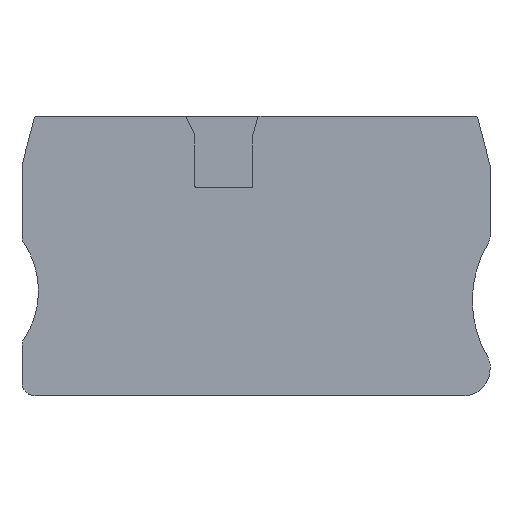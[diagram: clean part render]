
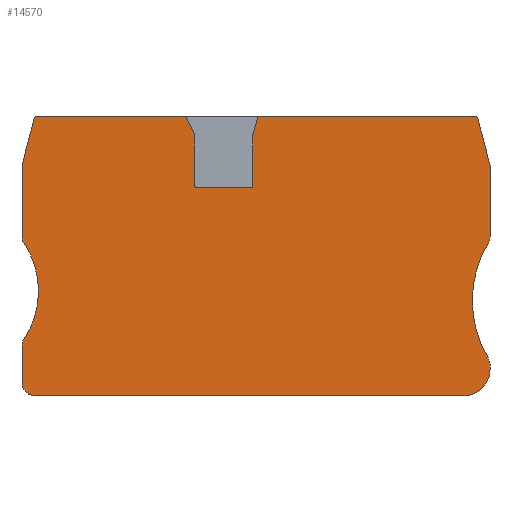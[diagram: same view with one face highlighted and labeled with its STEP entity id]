
A CAD part, top view. The second image highlights one B-rep face of the part: STEP entity #14570.
In plain terms, the highlighted planar face has unit normal (0, 0, 1).
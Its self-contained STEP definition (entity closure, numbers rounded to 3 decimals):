
#200=CARTESIAN_POINT('',(-2.6,31.9,12.2));
#210=VERTEX_POINT('',#200);
#240=CARTESIAN_POINT('',(12.583,31.9,12.2));
#250=DIRECTION('',(1.,0.,0.));
#260=VECTOR('',#250,1.);
#270=LINE('',#240,#260);
#280=CARTESIAN_POINT('',(-11.,31.9,12.2));
#290=VERTEX_POINT('',#280);
#300=EDGE_CURVE('',#290,#210,#270,.T.);
#530=CARTESIAN_POINT('',(-3.075,37.294,12.2));
#540=DIRECTION('',(0.259,0.966,0.));
#550=VECTOR('',#540,1.);
#560=LINE('',#530,#550);
#570=CARTESIAN_POINT('',(-2.4,39.812,12.2));
#580=VERTEX_POINT('',#570);
#590=CARTESIAN_POINT('',(-1.596,42.812,12.2));
#600=VERTEX_POINT('',#590);
#610=EDGE_CURVE('',#580,#600,#560,.T.);
#1140=CARTESIAN_POINT('',(31.428,42.812,12.2));
#1150=VERTEX_POINT('',#1140);
#1180=CARTESIAN_POINT('',(12.583,42.812,12.2));
#1190=DIRECTION('',(-1.,0.,0.));
#1200=VECTOR('',#1190,1.);
#1210=LINE('',#1180,#1200);
#1220=EDGE_CURVE('',#1150,#600,#1210,.T.);
#1370=CARTESIAN_POINT('',(-12.599,42.812,12.2));
#1380=VERTEX_POINT('',#1370);
#1410=CARTESIAN_POINT('',(-35.228,42.812,12.2));
#1420=VERTEX_POINT('',#1410);
#1430=EDGE_CURVE('',#1380,#1420,#1210,.T.);
#2030=CARTESIAN_POINT('',(-2.4,37.294,12.2));
#2040=DIRECTION('',(0.,1.,0.));
#2050=VECTOR('',#2040,1.);
#2060=LINE('',#2030,#2050);
#2070=CARTESIAN_POINT('',(-2.4,32.1,12.2));
#2080=VERTEX_POINT('',#2070);
#2090=EDGE_CURVE('',#2080,#580,#2060,.T.);
#5290=CARTESIAN_POINT('',(-10.026,37.294,12.2));
#5300=DIRECTION('',(0.423,-0.906,0.));
#5310=VECTOR('',#5300,1.);
#5320=LINE('',#5290,#5310);
#5330=CARTESIAN_POINT('',(-11.2,39.812,12.2));
#5340=VERTEX_POINT('',#5330);
#5350=EDGE_CURVE('',#1380,#5340,#5320,.T.);
#5670=CARTESIAN_POINT('',(-11.,32.1,12.2));
#5680=DIRECTION('',(0.,0.,-1.));
#5690=DIRECTION('',(-1.,0.,0.));
#5700=AXIS2_PLACEMENT_3D('',#5670,#5680,#5690);
#5710=CIRCLE('',#5700,0.2);
#5720=CARTESIAN_POINT('',(-11.2,32.1,12.2));
#5730=VERTEX_POINT('',#5720);
#5740=EDGE_CURVE('',#290,#5730,#5710,.T.);
#6070=CARTESIAN_POINT('',(-2.6,32.1,12.2));
#6080=DIRECTION('',(0.,0.,-1.));
#6090=DIRECTION('',(-1.,0.,0.));
#6100=AXIS2_PLACEMENT_3D('',#6070,#6080,#6090);
#6110=CIRCLE('',#6100,0.2);
#6120=EDGE_CURVE('',#2080,#210,#6110,.T.);
#6380=CARTESIAN_POINT('',(-11.2,37.294,12.2));
#6390=DIRECTION('',(0.,-1.,0.));
#6400=VECTOR('',#6390,1.);
#6410=LINE('',#6380,#6400);
#6420=EDGE_CURVE('',#5340,#5730,#6410,.T.);
#6970=CARTESIAN_POINT('',(-35.228,42.312,12.2));
#6980=DIRECTION('',(0.,0.,1.));
#6990=DIRECTION('',(1.,0.,0.));
#7000=AXIS2_PLACEMENT_3D('',#6970,#6980,#6990);
#7010=CIRCLE('',#7000,0.5);
#7020=CARTESIAN_POINT('',(-35.711,42.439,12.2));
#7030=VERTEX_POINT('',#7020);
#7040=EDGE_CURVE('',#1420,#7030,#7010,.T.);
#7290=CARTESIAN_POINT('',(-37.063,37.294,12.2));
#7300=DIRECTION('',(-0.254,-0.967,0.));
#7310=VECTOR('',#7300,1.);
#7320=LINE('',#7290,#7310);
#7330=CARTESIAN_POINT('',(-37.572,35.355,12.2));
#7340=VERTEX_POINT('',#7330);
#7350=EDGE_CURVE('',#7030,#7340,#7320,.T.);
#7600=CARTESIAN_POINT('',(-37.572,37.294,12.2));
#7610=DIRECTION('',(0.,-1.,0.));
#7620=VECTOR('',#7610,1.);
#7630=LINE('',#7600,#7620);
#7640=CARTESIAN_POINT('',(-37.572,24.372,12.2));
#7650=VERTEX_POINT('',#7640);
#7660=EDGE_CURVE('',#7340,#7650,#7630,.T.);
#7910=CARTESIAN_POINT('',(-36.072,24.372,12.2));
#7920=DIRECTION('',(0.,0.,1.));
#7930=DIRECTION('',(1.,0.,0.));
#7940=AXIS2_PLACEMENT_3D('',#7910,#7920,#7930);
#7950=CIRCLE('',#7940,1.5);
#7960=CARTESIAN_POINT('',(-37.315,23.533,12.2));
#7970=VERTEX_POINT('',#7960);
#7980=EDGE_CURVE('',#7650,#7970,#7950,.T.);
#8230=CARTESIAN_POINT('',(-48.257,16.15,12.2));
#8240=DIRECTION('',(0.,0.,1.));
#8250=DIRECTION('',(1.,0.,0.));
#8260=AXIS2_PLACEMENT_3D('',#8230,#8240,#8250);
#8270=CIRCLE('',#8260,13.2);
#8280=CARTESIAN_POINT('',(-35.057,16.15,12.2));
#8290=VERTEX_POINT('',#8280);
#8300=EDGE_CURVE('',#8290,#7970,#8270,.T.);
#8580=CARTESIAN_POINT('',(-37.315,8.767,12.2));
#8590=VERTEX_POINT('',#8580);
#8620=CARTESIAN_POINT('',(-36.072,7.928,12.2));
#8630=DIRECTION('',(0.,0.,1.));
#8640=DIRECTION('',(1.,0.,0.));
#8650=AXIS2_PLACEMENT_3D('',#8620,#8630,#8640);
#8660=CIRCLE('',#8650,1.5);
#8670=CARTESIAN_POINT('',(-37.572,7.928,12.2));
#8680=VERTEX_POINT('',#8670);
#8690=EDGE_CURVE('',#8590,#8680,#8660,.T.);
#8940=CARTESIAN_POINT('',(-37.572,37.294,12.2));
#8950=DIRECTION('',(0.,-1.,0.));
#8960=VECTOR('',#8950,1.);
#8970=LINE('',#8940,#8960);
#8980=CARTESIAN_POINT('',(-37.572,2.2,12.2));
#8990=VERTEX_POINT('',#8980);
#9000=EDGE_CURVE('',#8680,#8990,#8970,.T.);
#9250=CARTESIAN_POINT('',(-35.572,2.2,12.2));
#9260=DIRECTION('',(0.,0.,1.));
#9270=DIRECTION('',(1.,0.,0.));
#9280=AXIS2_PLACEMENT_3D('',#9250,#9260,#9270);
#9290=CIRCLE('',#9280,2.);
#9300=CARTESIAN_POINT('',(-35.572,0.2,12.2));
#9310=VERTEX_POINT('',#9300);
#9320=EDGE_CURVE('',#8990,#9310,#9290,.T.);
#9570=CARTESIAN_POINT('',(12.583,0.2,12.2));
#9580=DIRECTION('',(1.,0.,0.));
#9590=VECTOR('',#9580,1.);
#9600=LINE('',#9570,#9590);
#9610=CARTESIAN_POINT('',(29.772,0.2,12.2));
#9620=VERTEX_POINT('',#9610);
#9630=EDGE_CURVE('',#9310,#9620,#9600,.T.);
#9880=CARTESIAN_POINT('',(29.772,4.2,12.2));
#9890=DIRECTION('',(0.,0.,1.));
#9900=DIRECTION('',(1.,0.,0.));
#9910=AXIS2_PLACEMENT_3D('',#9880,#9890,#9900);
#9920=CIRCLE('',#9910,4.);
#9930=CARTESIAN_POINT('',(33.772,4.2,12.2));
#9940=VERTEX_POINT('',#9930);
#9950=EDGE_CURVE('',#9620,#9940,#9920,.T.);
#10200=CARTESIAN_POINT('',(33.772,37.294,12.2));
#10210=DIRECTION('',(0.,1.,0.));
#10220=VECTOR('',#10210,1.);
#10230=LINE('',#10200,#10220);
#10240=CARTESIAN_POINT('',(33.772,4.937,12.2));
#10250=VERTEX_POINT('',#10240);
#10260=EDGE_CURVE('',#9940,#10250,#10230,.T.);
#10510=CARTESIAN_POINT('',(31.772,4.937,12.2));
#10520=DIRECTION('',(0.,0.,1.));
#10530=DIRECTION('',(1.,0.,0.));
#10540=AXIS2_PLACEMENT_3D('',#10510,#10520,#10530);
#10550=CIRCLE('',#10540,2.);
#10560=CARTESIAN_POINT('',(33.487,5.965,12.2));
#10570=VERTEX_POINT('',#10560);
#10580=EDGE_CURVE('',#10250,#10570,#10550,.T.);
#10830=CARTESIAN_POINT('',(48.072,14.7,12.2));
#10840=DIRECTION('',(0.,0.,1.));
#10850=DIRECTION('',(1.,0.,0.));
#10860=AXIS2_PLACEMENT_3D('',#10830,#10840,#10850);
#10870=CIRCLE('',#10860,17.);
#10880=CARTESIAN_POINT('',(31.072,14.7,12.2));
#10890=VERTEX_POINT('',#10880);
#10900=EDGE_CURVE('',#10890,#10570,#10870,.T.);
#11180=CARTESIAN_POINT('',(33.487,23.435,12.2));
#11190=VERTEX_POINT('',#11180);
#11220=CARTESIAN_POINT('',(31.772,24.463,12.2));
#11230=DIRECTION('',(0.,0.,1.));
#11240=DIRECTION('',(1.,0.,0.));
#11250=AXIS2_PLACEMENT_3D('',#11220,#11230,#11240);
#11260=CIRCLE('',#11250,2.);
#11270=CARTESIAN_POINT('',(33.772,24.463,12.2));
#11280=VERTEX_POINT('',#11270);
#11290=EDGE_CURVE('',#11190,#11280,#11260,.T.);
#11540=CARTESIAN_POINT('',(33.772,37.294,12.2));
#11550=DIRECTION('',(0.,1.,0.));
#11560=VECTOR('',#11550,1.);
#11570=LINE('',#11540,#11560);
#11580=CARTESIAN_POINT('',(33.772,35.355,12.2));
#11590=VERTEX_POINT('',#11580);
#11600=EDGE_CURVE('',#11280,#11590,#11570,.T.);
#11850=CARTESIAN_POINT('',(33.263,37.294,12.2));
#11860=DIRECTION('',(-0.254,0.967,0.));
#11870=VECTOR('',#11860,1.);
#11880=LINE('',#11850,#11870);
#11890=CARTESIAN_POINT('',(31.911,42.439,12.2));
#11900=VERTEX_POINT('',#11890);
#11910=EDGE_CURVE('',#11590,#11900,#11880,.T.);
#12160=CARTESIAN_POINT('',(31.428,42.312,12.2));
#12170=DIRECTION('',(0.,0.,1.));
#12180=DIRECTION('',(1.,0.,0.));
#12190=AXIS2_PLACEMENT_3D('',#12160,#12170,#12180);
#12200=CIRCLE('',#12190,0.5);
#12210=EDGE_CURVE('',#11900,#1150,#12200,.T.);
#13920=EDGE_CURVE('',#8590,#8290,#8270,.T.);
#14070=EDGE_CURVE('',#11190,#10890,#10870,.T.);
#14220=CARTESIAN_POINT('',(-31.991,11.148,12.2));
#14230=DIRECTION('',(0.,0.,1.));
#14240=DIRECTION('',(1.,0.,0.));
#14250=AXIS2_PLACEMENT_3D('',#14220,#14230,#14240);
#14260=PLANE('',#14250);
#14270=ORIENTED_EDGE('',*,*,#12210,.T.);
#14280=ORIENTED_EDGE('',*,*,#11910,.T.);
#14290=ORIENTED_EDGE('',*,*,#11600,.T.);
#14300=ORIENTED_EDGE('',*,*,#11290,.T.);
#14310=ORIENTED_EDGE('',*,*,#14070,.F.);
#14320=ORIENTED_EDGE('',*,*,#10900,.F.);
#14330=ORIENTED_EDGE('',*,*,#10580,.T.);
#14340=ORIENTED_EDGE('',*,*,#10260,.T.);
#14350=ORIENTED_EDGE('',*,*,#9950,.T.);
#14360=ORIENTED_EDGE('',*,*,#9630,.T.);
#14370=ORIENTED_EDGE('',*,*,#9320,.T.);
#14380=ORIENTED_EDGE('',*,*,#9000,.T.);
#14390=ORIENTED_EDGE('',*,*,#8690,.T.);
#14400=ORIENTED_EDGE('',*,*,#13920,.F.);
#14410=ORIENTED_EDGE('',*,*,#8300,.F.);
#14420=ORIENTED_EDGE('',*,*,#7980,.T.);
#14430=ORIENTED_EDGE('',*,*,#7660,.T.);
#14440=ORIENTED_EDGE('',*,*,#7350,.T.);
#14450=ORIENTED_EDGE('',*,*,#7040,.T.);
#14460=ORIENTED_EDGE('',*,*,#1430,.T.);
#14470=ORIENTED_EDGE('',*,*,#5350,.F.);
#14480=ORIENTED_EDGE('',*,*,#6420,.F.);
#14490=ORIENTED_EDGE('',*,*,#5740,.T.);
#14500=ORIENTED_EDGE('',*,*,#300,.F.);
#14510=ORIENTED_EDGE('',*,*,#6120,.T.);
#14520=ORIENTED_EDGE('',*,*,#2090,.F.);
#14530=ORIENTED_EDGE('',*,*,#610,.F.);
#14540=ORIENTED_EDGE('',*,*,#1220,.T.);
#14550=EDGE_LOOP('',(#14540,#14530,#14520,#14510,#14500,#14490,#14480,
#14470,#14460,#14450,#14440,#14430,#14420,#14410,#14400,#14390,#14380,
#14370,#14360,#14350,#14340,#14330,#14320,#14310,#14300,#14290,#14280,
#14270));
#14560=FACE_OUTER_BOUND('',#14550,.T.);
#14570=ADVANCED_FACE('',(#14560),#14260,.T.);
